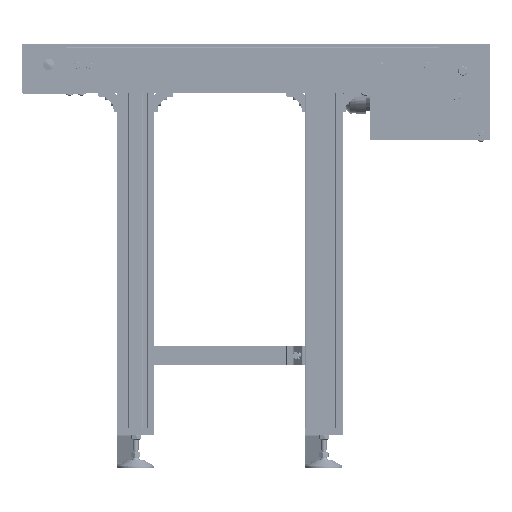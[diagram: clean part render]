
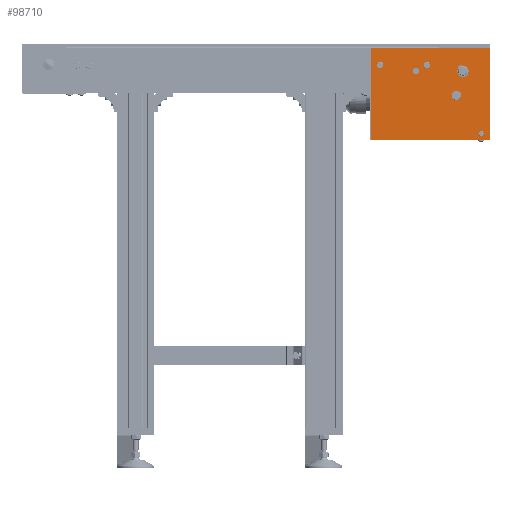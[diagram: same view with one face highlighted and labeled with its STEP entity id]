
A CAD part, front view. The second image highlights one B-rep face of the part: STEP entity #98710.
In plain terms, the highlighted planar face has unit normal (0, -1, 0).
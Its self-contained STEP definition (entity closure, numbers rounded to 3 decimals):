
#2329=FACE_BOUND('',#17799,.T.);
#2330=FACE_BOUND('',#17800,.T.);
#2331=FACE_BOUND('',#17801,.T.);
#2332=FACE_BOUND('',#17802,.T.);
#2333=FACE_BOUND('',#17803,.T.);
#2334=FACE_BOUND('',#17804,.T.);
#6730=CIRCLE('',#106378,10.);
#6760=CIRCLE('',#106445,6.5);
#6796=CIRCLE('',#106534,5.);
#6865=CIRCLE('',#106684,10.);
#6873=CIRCLE('',#106708,6.5);
#6874=CIRCLE('',#106709,6.5);
#11818=FACE_OUTER_BOUND('',#17798,.T.);
#17798=EDGE_LOOP('',(#79065,#79066,#79067,#79068));
#17799=EDGE_LOOP('',(#79069));
#17800=EDGE_LOOP('',(#79070));
#17801=EDGE_LOOP('',(#79071));
#17802=EDGE_LOOP('',(#79072));
#17803=EDGE_LOOP('',(#79073));
#17804=EDGE_LOOP('',(#79074));
#26646=LINE('',#160728,#35332);
#26660=LINE('',#160839,#35346);
#26661=LINE('',#160841,#35347);
#26662=LINE('',#160842,#35348);
#35332=VECTOR('',#129231,255.);
#35346=VECTOR('',#129315,195.);
#35347=VECTOR('',#129316,195.);
#35348=VECTOR('',#129317,255.);
#43607=VERTEX_POINT('',#159891);
#43634=VERTEX_POINT('',#159988);
#43719=VERTEX_POINT('',#160296);
#43852=VERTEX_POINT('',#160725);
#43853=VERTEX_POINT('',#160727);
#43859=VERTEX_POINT('',#160746);
#43879=VERTEX_POINT('',#160838);
#43880=VERTEX_POINT('',#160840);
#43881=VERTEX_POINT('',#160843);
#43882=VERTEX_POINT('',#160845);
#55815=EDGE_CURVE('',#43607,#43607,#6730,.T.);
#55848=EDGE_CURVE('',#43634,#43634,#6760,.T.);
#55970=EDGE_CURVE('',#43719,#43719,#6796,.T.);
#56168=EDGE_CURVE('',#43853,#43852,#26646,.T.);
#56175=EDGE_CURVE('',#43859,#43859,#6865,.T.);
#56207=EDGE_CURVE('',#43879,#43853,#26660,.T.);
#56208=EDGE_CURVE('',#43852,#43880,#26661,.T.);
#56209=EDGE_CURVE('',#43880,#43879,#26662,.T.);
#56210=EDGE_CURVE('',#43881,#43881,#6873,.T.);
#56211=EDGE_CURVE('',#43882,#43882,#6874,.T.);
#79065=ORIENTED_EDGE('',*,*,#56207,.T.);
#79066=ORIENTED_EDGE('',*,*,#56168,.T.);
#79067=ORIENTED_EDGE('',*,*,#56208,.T.);
#79068=ORIENTED_EDGE('',*,*,#56209,.T.);
#79069=ORIENTED_EDGE('',*,*,#55815,.T.);
#79070=ORIENTED_EDGE('',*,*,#55848,.T.);
#79071=ORIENTED_EDGE('',*,*,#55970,.T.);
#79072=ORIENTED_EDGE('',*,*,#56175,.T.);
#79073=ORIENTED_EDGE('',*,*,#56210,.T.);
#79074=ORIENTED_EDGE('',*,*,#56211,.T.);
#88864=PLANE('',#106707);
#98710=ADVANCED_FACE('',(#11818,#2329,#2330,#2331,#2332,#2333,#2334),#88864,
 .T.);
#106378=AXIS2_PLACEMENT_3D('',#159892,#128454,#128455);
#106445=AXIS2_PLACEMENT_3D('',#159989,#128591,#128592);
#106534=AXIS2_PLACEMENT_3D('',#160297,#128831,#128832);
#106684=AXIS2_PLACEMENT_3D('',#160747,#129255,#129256);
#106707=AXIS2_PLACEMENT_3D('',#160837,#129313,#129314);
#106708=AXIS2_PLACEMENT_3D('',#160844,#129318,#129319);
#106709=AXIS2_PLACEMENT_3D('',#160846,#129320,#129321);
#128454=DIRECTION('center_axis',(0.,1.,0.));
#128455=DIRECTION('ref_axis',(-0.747,0.,0.665));
#128591=DIRECTION('center_axis',(0.,1.,0.));
#128592=DIRECTION('ref_axis',(-1.,0.,0.));
#128831=DIRECTION('center_axis',(0.,1.,0.));
#128832=DIRECTION('ref_axis',(-1.,0.,0.));
#129231=DIRECTION('',(-1.,0.,0.));
#129255=DIRECTION('center_axis',(0.,1.,0.));
#129256=DIRECTION('ref_axis',(-0.369,0.,0.929));
#129313=DIRECTION('center_axis',(0.,-1.,0.));
#129314=DIRECTION('ref_axis',(1.,0.,0.));
#129315=DIRECTION('',(0.,0.,1.));
#129316=DIRECTION('',(0.,0.,-1.));
#129317=DIRECTION('',(1.,0.,0.));
#129318=DIRECTION('center_axis',(0.,1.,0.));
#129319=DIRECTION('ref_axis',(-1.,0.,0.));
#129320=DIRECTION('center_axis',(0.,1.,0.));
#129321=DIRECTION('ref_axis',(-1.,0.,0.));
#159891=CARTESIAN_POINT('',(949.467,-215.7,41.228));
#159892=CARTESIAN_POINT('Origin',(942.,-215.7,47.88));
#159988=CARTESIAN_POINT('',(835.5,-215.7,47.88));
#159989=CARTESIAN_POINT('Origin',(842.,-215.7,47.88));
#160296=CARTESIAN_POINT('',(976.,-215.7,-86.05));
#160297=CARTESIAN_POINT('Origin',(981.,-215.7,-86.05));
#160725=CARTESIAN_POINT('',(745.,-215.7,96.45));
#160727=CARTESIAN_POINT('',(1000.,-215.7,96.45));
#160728=CARTESIAN_POINT('',(872.5,-215.7,96.45));
#160746=CARTESIAN_POINT('',(924.31,-215.7,5.174));
#160747=CARTESIAN_POINT('Origin',(928.,-215.7,-4.12));
#160837=CARTESIAN_POINT('Origin',(872.5,-215.7,-1.05));
#160838=CARTESIAN_POINT('',(1000.,-215.7,-98.55));
#160839=CARTESIAN_POINT('',(1000.,-215.7,-1.05));
#160840=CARTESIAN_POINT('',(745.,-215.7,-98.55));
#160841=CARTESIAN_POINT('',(745.,-215.7,-1.05));
#160842=CARTESIAN_POINT('',(872.5,-215.7,-98.55));
#160843=CARTESIAN_POINT('',(758.5,-215.7,59.975));
#160844=CARTESIAN_POINT('Origin',(765.,-215.7,59.975));
#160845=CARTESIAN_POINT('',(858.5,-215.7,59.975));
#160846=CARTESIAN_POINT('Origin',(865.,-215.7,59.975));
